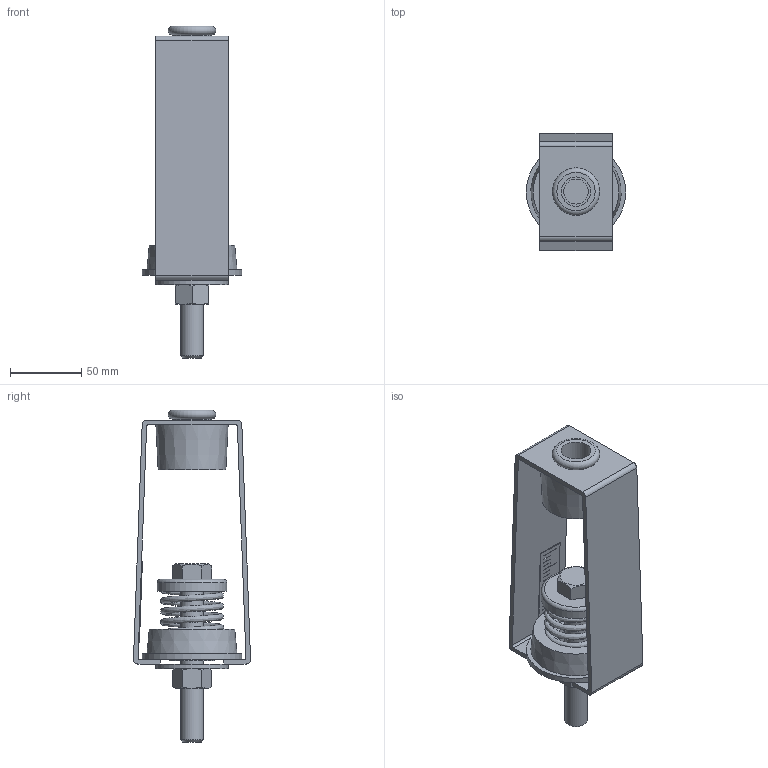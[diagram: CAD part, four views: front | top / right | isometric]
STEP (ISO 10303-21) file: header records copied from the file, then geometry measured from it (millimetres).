
FILE_DESCRIPTION((''),'2;1');
FILE_NAME('C:\2012_Work\Designs\HANGER BOXES\30N\PC30N-A-95.stp','2013-10-16T10:50:53',('KShiels'),(''),'Autodesk Inventor 2012','Autodesk Inventor 2012','');
FILE_SCHEMA(('AUTOMOTIVE_DESIGN { 1 0 10303 214 1 1 1 1 }'));
Length unit declared in the file: inch
Products named in the file (18): PC30N-A-95; 30N-A-95 pc; A-20478-3 30N-A; A-20478-3A; A-20478-3B; A-20495-7N; A-20495-7A; A-20495-7B; A-3267-6 FOR 0625 DIA ROD; A-8587-2R LDS HANGER CUP A; A-8587-2R LDS CUP A; A-8587-2R WASHER A; A-30-95 SPRING PC; A-32636 A Spring spacer; BOLT 0.625-11 x 4; WASHER HANGER 2od 0.6875id A-31775; PC SCALE; Hex Nut - Inch 5/8 - 11
Assembly tree (17 placements, depth 5):
  PC30N-A-95
    30N-A-95 pc
      A-20478-3 30N-A
        A-20478-3A
        A-20478-3B
        A-20495-7N
          A-20495-7A
          A-20495-7B
        A-3267-6 FOR 0625 DIA ROD
        A-8587-2R LDS HANGER CUP A
          A-8587-2R LDS CUP A
          A-8587-2R WASHER A
      A-30-95 SPRING PC
      A-32636 A Spring spacer
    BOLT 0.625-11 x 4
    WASHER HANGER 2od 0.6875id A-31775
    PC SCALE
    Hex Nut - Inch 5/8 - 11
Bounding box: 69.85 x 82.31 x 233.43 mm (x, y, z)
Volume: 227747.5 mm3; surface area: 122836.6 mm2
Topology: 13 solids, 13 shells, 171 faces, 342 edges, 223 vertices
Faces by surface type: plane 99, cylinder 50, cone 18, torus 3, bspline 1
Full cylindrical faces by diameter (mm): 13.386 x1, 15.875 x1, 16.669 x1, 17.463 x2, 20.638 x1, 25.4 x2, 26.988 x3, 31.75 x4, 43.656 x2, 44.45 x2, 45.263 x1, 49.058 x1, 50.8 x1, 53.975 x2, 69.85 x1
Entity records: 5776 total; most frequent: CARTESIAN_POINT 1736, DIRECTION 806, ORIENTED_EDGE 608, AXIS2_PLACEMENT_3D 331, EDGE_CURVE 304, EDGE_LOOP 251, VERTEX_POINT 219, FACE_OUTER_BOUND 171
